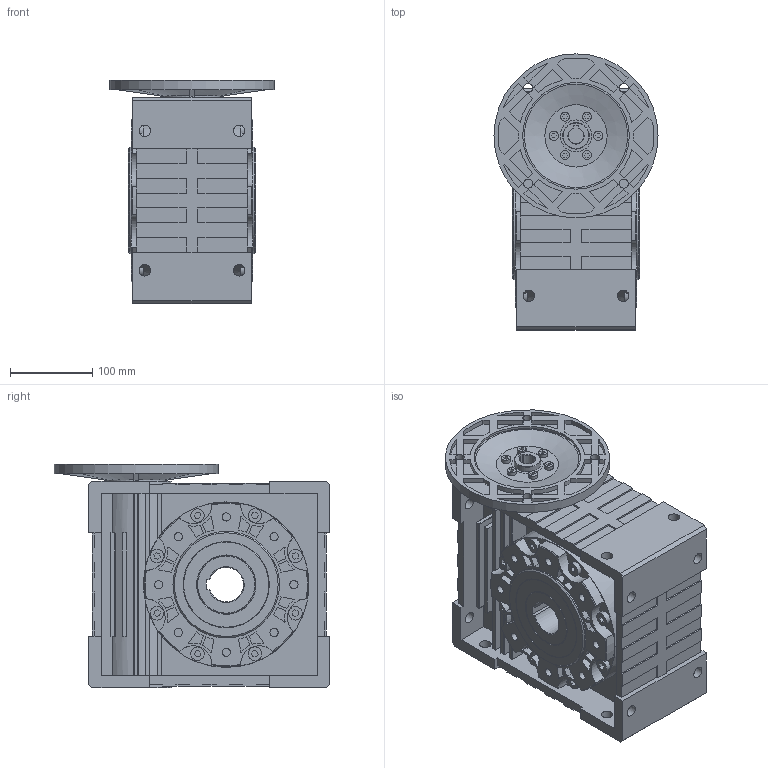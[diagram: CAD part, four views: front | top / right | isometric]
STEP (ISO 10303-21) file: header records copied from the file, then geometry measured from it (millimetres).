
FILE_DESCRIPTION(/* description */ (''),/* implementation_level */ '2;1');
FILE_NAME(/* name */ 'Z:\동력 3D 파일\PCMRV110_80B5_3D.stp',/* time_stamp */ '2021-12-01T17:34:56+09:00',/* author */ ('jaebok'),/* organization */ (''),/* preprocessor_version */ 'ST-DEVELOPER v18.1',/* originating_system */ 'Autodesk Inventor 2022',/* authorisation */ '');
FILE_SCHEMA (('AUTOMOTIVE_DESIGN { 1 0 10303 214 3 1 1 }'));
Length unit declared in the file: millimetre
Products named in the file (1): 부품56
Bounding box: 200 x 336.5 x 273 mm (x, y, z)
Volume: 8585506.9 mm3; surface area: 622117.5 mm2
Topology: 1 solids, 1 shells, 958 faces, 2456 edges, 1633 vertices
Faces by surface type: plane 634, cylinder 291, cone 33
Full cylindrical faces by diameter (mm): 10 x16, 10.925 x6, 11 x4, 14 x16, 16.5 x16, 32.3 x1, 38.76 x1, 70 x1, 71.4 x2, 78.25 x2, 80.25 x2, 105 x2, 130 x3, 200 x1, 201.6 x2
Entity records: 30368 total; most frequent: CARTESIAN_POINT 5412, DIRECTION 4932, ORIENTED_EDGE 4912, EDGE_CURVE 2456, LINE 1758, VECTOR 1758, VERTEX_POINT 1633, AXIS2_PLACEMENT_3D 1587
